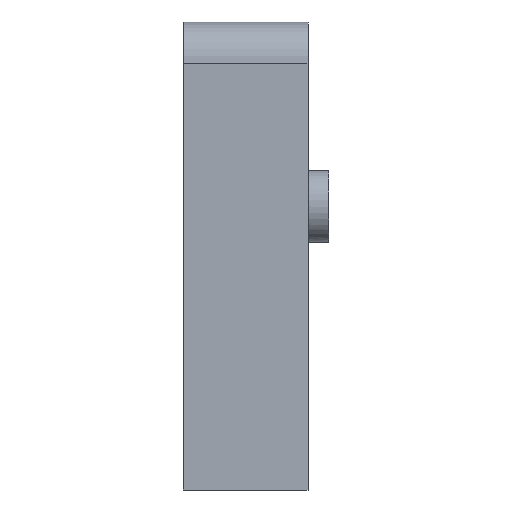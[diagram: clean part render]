
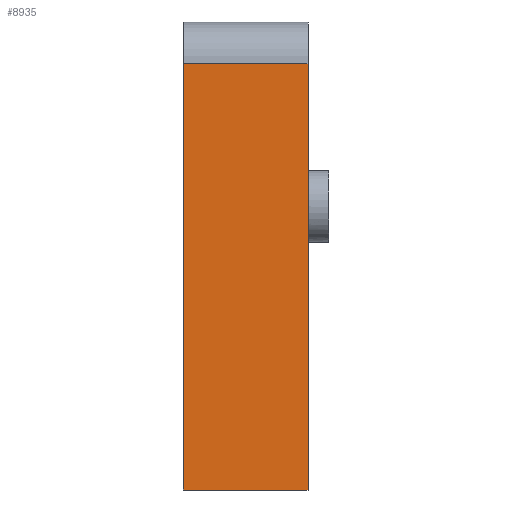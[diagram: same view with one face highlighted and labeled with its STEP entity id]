
A CAD part, left-side view. The second image highlights one B-rep face of the part: STEP entity #8935.
In plain terms, the highlighted planar face has unit normal (-1, 0, 0).
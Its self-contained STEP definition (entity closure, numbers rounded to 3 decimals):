
#24 = FACE_OUTER_BOUND ( 'NONE', #4574, .T. ) ;
#820 = VERTEX_POINT ( 'NONE', #8004 ) ;
#1000 = LINE ( 'NONE', #1169, #8184 ) ;
#1169 = CARTESIAN_POINT ( 'NONE',  ( -400., -120., 185. ) ) ;
#1399 = ORIENTED_EDGE ( 'NONE', *, *, #6993, .T. ) ;
#1474 = VERTEX_POINT ( 'NONE', #5984 ) ;
#1510 = VERTEX_POINT ( 'NONE', #7989 ) ;
#2201 = EDGE_CURVE ( 'NONE', #3326, #1510, #11612, .T. ) ;
#2739 = CARTESIAN_POINT ( 'NONE',  ( -400., -120., -225. ) ) ;
#2782 = CARTESIAN_POINT ( 'NONE',  ( -400., -0.5, -225. ) ) ;
#3326 = VERTEX_POINT ( 'NONE', #9425 ) ;
#3520 = EDGE_CURVE ( 'NONE', #1474, #820, #1000, .T. ) ;
#3688 = PLANE ( 'NONE',  #6371 ) ;
#3726 = DIRECTION ( 'NONE',  ( 0., 0., -1. ) ) ;
#3864 = LINE ( 'NONE', #6761, #7978 ) ;
#4116 = ORIENTED_EDGE ( 'NONE', *, *, #8961, .T. ) ;
#4425 = VECTOR ( 'NONE', #3726, 1000. ) ;
#4574 = EDGE_LOOP ( 'NONE', ( #8691, #4116, #11460, #1399 ) ) ;
#4620 = CARTESIAN_POINT ( 'NONE',  ( -400., -120., -225. ) ) ;
#4632 = DIRECTION ( 'NONE',  ( 0., 0., 1. ) ) ;
#5984 = CARTESIAN_POINT ( 'NONE',  ( -400., -120., 185. ) ) ;
#6014 = VECTOR ( 'NONE', #9318, 1000. ) ;
#6371 = AXIS2_PLACEMENT_3D ( 'NONE', #2739, #10287, #4632 ) ;
#6761 = CARTESIAN_POINT ( 'NONE',  ( -400., -120., -225. ) ) ;
#6993 = EDGE_CURVE ( 'NONE', #3326, #1474, #3864, .T. ) ;
#7811 = DIRECTION ( 'NONE',  ( 0., 1., 0. ) ) ;
#7978 = VECTOR ( 'NONE', #8655, 1000. ) ;
#7989 = CARTESIAN_POINT ( 'NONE',  ( -400., -0.5, -225. ) ) ;
#8004 = CARTESIAN_POINT ( 'NONE',  ( -400., -0.5, 185. ) ) ;
#8184 = VECTOR ( 'NONE', #7811, 1000. ) ;
#8655 = DIRECTION ( 'NONE',  ( 0., 0., 1. ) ) ;
#8691 = ORIENTED_EDGE ( 'NONE', *, *, #3520, .T. ) ;
#8935 = ADVANCED_FACE ( 'NONE', ( #24 ), #3688, .T. ) ;
#8961 = EDGE_CURVE ( 'NONE', #820, #1510, #11928, .T. ) ;
#9318 = DIRECTION ( 'NONE',  ( 0., 1., 0. ) ) ;
#9425 = CARTESIAN_POINT ( 'NONE',  ( -400., -120., -225. ) ) ;
#10287 = DIRECTION ( 'NONE',  ( -1., 0., 0. ) ) ;
#11460 = ORIENTED_EDGE ( 'NONE', *, *, #2201, .F. ) ;
#11612 = LINE ( 'NONE', #4620, #6014 ) ;
#11928 = LINE ( 'NONE', #2782, #4425 ) ;
